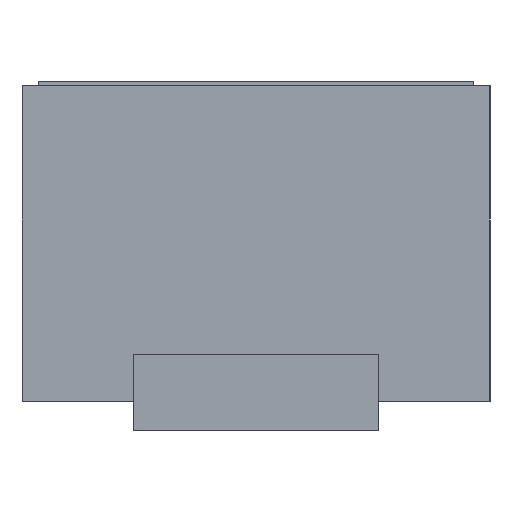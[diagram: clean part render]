
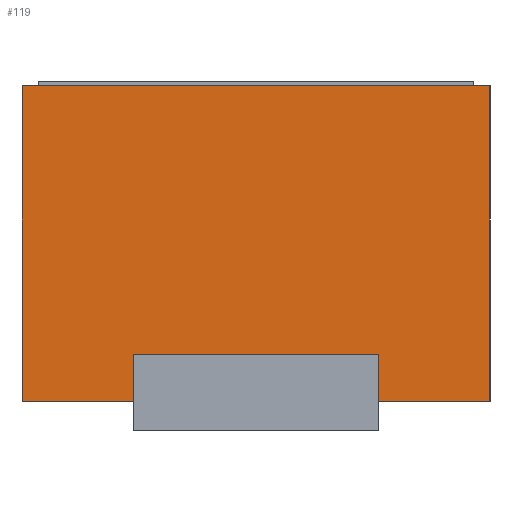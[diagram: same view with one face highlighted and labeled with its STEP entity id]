
A CAD part, left-side view. The second image highlights one B-rep face of the part: STEP entity #119.
In plain terms, the highlighted planar face has unit normal (-1, 0, 0).
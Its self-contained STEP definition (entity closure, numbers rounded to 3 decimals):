
#21 = EDGE_CURVE('',#22,#24,#26,.T.);
#22 = VERTEX_POINT('',#23);
#23 = CARTESIAN_POINT('',(-1.35,-0.8,0.12));
#24 = VERTEX_POINT('',#25);
#25 = CARTESIAN_POINT('',(-1.35,-0.8,1.2));
#26 = LINE('',#27,#28);
#27 = CARTESIAN_POINT('',(-1.35,-0.8,0.12));
#28 = VECTOR('',#29,1.);
#29 = DIRECTION('',(0.,0.,1.));
#94 = VERTEX_POINT('',#95);
#95 = CARTESIAN_POINT('',(-1.35,0.8,1.2));
#101 = EDGE_CURVE('',#102,#94,#104,.T.);
#102 = VERTEX_POINT('',#103);
#103 = CARTESIAN_POINT('',(-1.35,0.8,0.12));
#104 = LINE('',#105,#106);
#105 = CARTESIAN_POINT('',(-1.35,0.8,0.12));
#106 = VECTOR('',#107,1.);
#107 = DIRECTION('',(0.,0.,1.));
#119 = ADVANCED_FACE('',(#120),#136,.F.);
#120 = FACE_BOUND('',#121,.F.);
#121 = EDGE_LOOP('',(#122,#123,#129,#130));
#122 = ORIENTED_EDGE('',*,*,#101,.T.);
#123 = ORIENTED_EDGE('',*,*,#124,.T.);
#124 = EDGE_CURVE('',#94,#24,#125,.T.);
#125 = LINE('',#126,#127);
#126 = CARTESIAN_POINT('',(-1.35,0.8,1.2));
#127 = VECTOR('',#128,1.);
#128 = DIRECTION('',(0.,-1.,0.));
#129 = ORIENTED_EDGE('',*,*,#21,.F.);
#130 = ORIENTED_EDGE('',*,*,#131,.F.);
#131 = EDGE_CURVE('',#102,#22,#132,.T.);
#132 = LINE('',#133,#134);
#133 = CARTESIAN_POINT('',(-1.35,0.8,0.12));
#134 = VECTOR('',#135,1.);
#135 = DIRECTION('',(0.,-1.,0.));
#136 = PLANE('',#137);
#137 = AXIS2_PLACEMENT_3D('',#138,#139,#140);
#138 = CARTESIAN_POINT('',(-1.35,0.8,0.12));
#139 = DIRECTION('',(1.,0.,-0.));
#140 = DIRECTION('',(0.,-1.,0.));
